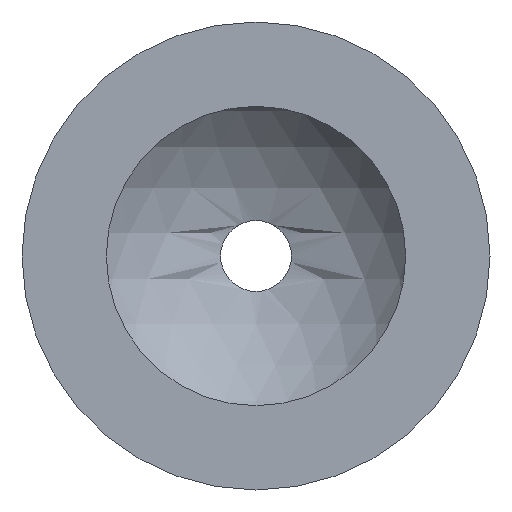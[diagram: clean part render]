
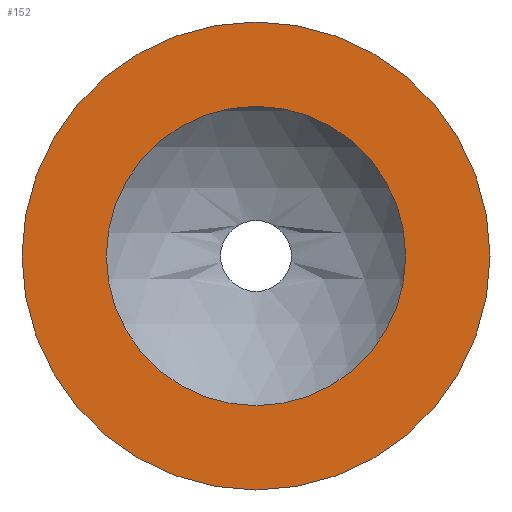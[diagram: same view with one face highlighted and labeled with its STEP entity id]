
A CAD part, front view. The second image highlights one B-rep face of the part: STEP entity #152.
In plain terms, the highlighted planar face has unit normal (0, -1, 0).
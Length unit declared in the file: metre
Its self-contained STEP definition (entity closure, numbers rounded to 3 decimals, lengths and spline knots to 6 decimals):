
#152=ADVANCED_FACE('4:13200',(#303,#304),#305,.T.);
#303=FACE_BOUND('',#475,.T.);
#304=FACE_OUTER_BOUND('',#476,.T.);
#305=PLANE('',#477);
#475=EDGE_LOOP('',(#740,#741));
#476=EDGE_LOOP('',(#742,#743));
#477=AXIS2_PLACEMENT_3D('',#744,#745,#746);
#740=ORIENTED_EDGE('',*,*,#965,.F.);
#741=ORIENTED_EDGE('',*,*,#884,.F.);
#742=ORIENTED_EDGE('',*,*,#889,.T.);
#743=ORIENTED_EDGE('',*,*,#963,.T.);
#744=CARTESIAN_POINT('',(0.02435,-0.0325,0.0));
#745=DIRECTION('',(0.0,-1.0,0.0));
#746=DIRECTION('',(1.0,0.0,-0.0));
#884=EDGE_CURVE('',#1042,#1038,#1044,.T.);
#889=EDGE_CURVE('4:13227',#1047,#1051,#1053,.T.);
#963=EDGE_CURVE('',#1051,#1047,#1161,.T.);
#965=EDGE_CURVE('4:13230',#1038,#1042,#1163,.T.);
#1038=VERTEX_POINT('',#1284);
#1042=VERTEX_POINT('',#1289);
#1044=CIRCLE('',#1292,0.019);
#1047=VERTEX_POINT('',#1295);
#1051=VERTEX_POINT('',#1300);
#1053=CIRCLE('',#1303,0.0297);
#1161=CIRCLE('',#1425,0.0297);
#1163=CIRCLE('',#1427,0.019);
#1284=CARTESIAN_POINT('',(0.019,-0.0325,0.0));
#1289=CARTESIAN_POINT('',(-0.019,-0.0325,0.));
#1292=AXIS2_PLACEMENT_3D('',#1567,#1568,#1569);
#1295=CARTESIAN_POINT('',(0.0297,-0.0325,0.0));
#1300=CARTESIAN_POINT('',(-0.0297,-0.0325,0.));
#1303=AXIS2_PLACEMENT_3D('',#1575,#1576,#1577);
#1425=AXIS2_PLACEMENT_3D('',#1706,#1707,#1708);
#1427=AXIS2_PLACEMENT_3D('',#1709,#1710,#1711);
#1567=CARTESIAN_POINT('',(0.0,-0.0325,0.0));
#1568=DIRECTION('',(0.0,-1.0,0.0));
#1569=DIRECTION('',(1.0,0.0,0.0));
#1575=CARTESIAN_POINT('',(0.0,-0.0325,0.0));
#1576=DIRECTION('',(0.0,-1.0,0.0));
#1577=DIRECTION('',(1.0,0.0,0.0));
#1706=CARTESIAN_POINT('',(0.0,-0.0325,0.0));
#1707=DIRECTION('',(0.0,-1.0,0.0));
#1708=DIRECTION('',(1.0,0.0,0.0));
#1709=CARTESIAN_POINT('',(0.0,-0.0325,0.0));
#1710=DIRECTION('',(0.0,-1.0,0.0));
#1711=DIRECTION('',(1.0,0.0,0.0));
